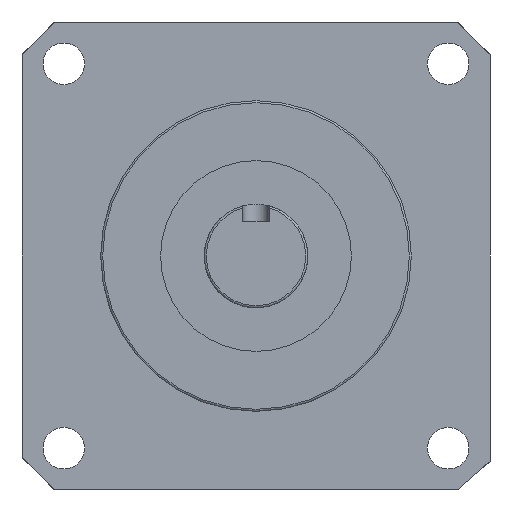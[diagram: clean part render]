
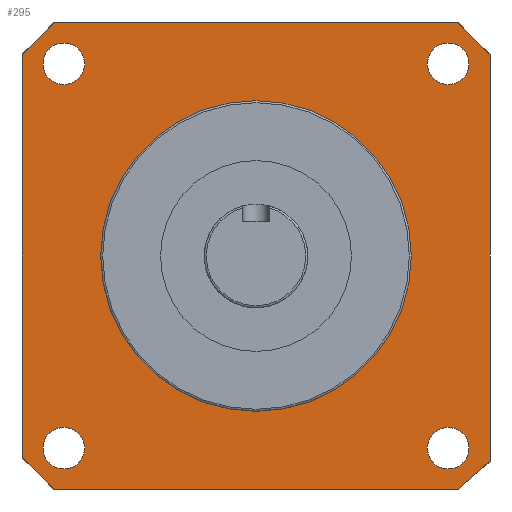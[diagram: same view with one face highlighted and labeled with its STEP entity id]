
A CAD part, front view. The second image highlights one B-rep face of the part: STEP entity #295.
In plain terms, the highlighted planar face has unit normal (0, -1, 0).
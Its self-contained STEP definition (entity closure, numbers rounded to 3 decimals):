
#295 = ADVANCED_FACE( '', ( #616, #617, #618, #619, #620, #621 ), #622, .T. );
#616 = FACE_BOUND( '', #943, .T. );
#617 = FACE_BOUND( '', #944, .T. );
#618 = FACE_OUTER_BOUND( '', #945, .T. );
#619 = FACE_BOUND( '', #946, .T. );
#620 = FACE_BOUND( '', #947, .T. );
#621 = FACE_BOUND( '', #948, .T. );
#622 = PLANE( '', #949 );
#943 = EDGE_LOOP( '', ( #1580 ) );
#944 = EDGE_LOOP( '', ( #1581 ) );
#945 = EDGE_LOOP( '', ( #1582, #1583, #1584, #1585, #1586, #1587, #1588, #1589 ) );
#946 = EDGE_LOOP( '', ( #1590 ) );
#947 = EDGE_LOOP( '', ( #1591 ) );
#948 = EDGE_LOOP( '', ( #1592 ) );
#949 = AXIS2_PLACEMENT_3D( '', #1593, #1594, #1595 );
#1580 = ORIENTED_EDGE( '', *, *, #1835, .T. );
#1581 = ORIENTED_EDGE( '', *, *, #1689, .T. );
#1582 = ORIENTED_EDGE( '', *, *, #1669, .T. );
#1583 = ORIENTED_EDGE( '', *, *, #1815, .T. );
#1584 = ORIENTED_EDGE( '', *, *, #1783, .T. );
#1585 = ORIENTED_EDGE( '', *, *, #1693, .T. );
#1586 = ORIENTED_EDGE( '', *, *, #1672, .T. );
#1587 = ORIENTED_EDGE( '', *, *, #1732, .F. );
#1588 = ORIENTED_EDGE( '', *, *, #1849, .T. );
#1589 = ORIENTED_EDGE( '', *, *, #1838, .F. );
#1590 = ORIENTED_EDGE( '', *, *, #1729, .F. );
#1591 = ORIENTED_EDGE( '', *, *, #1725, .T. );
#1592 = ORIENTED_EDGE( '', *, *, #1801, .T. );
#1593 = CARTESIAN_POINT( '', ( 28.704, -92., 28.675 ) );
#1594 = DIRECTION( '', ( 0., -1., 0. ) );
#1595 = DIRECTION( '', ( 0., 0., -1. ) );
#1669 = EDGE_CURVE( '', #1951, #1949, #1952, .T. );
#1672 = EDGE_CURVE( '', #1955, #1956, #1957, .T. );
#1689 = EDGE_CURVE( '', #1982, #1982, #1983, .T. );
#1693 = EDGE_CURVE( '', #1989, #1955, #1990, .T. );
#1725 = EDGE_CURVE( '', #2037, #2037, #2038, .T. );
#1729 = EDGE_CURVE( '', #2044, #2044, #2045, .T. );
#1732 = EDGE_CURVE( '', #2048, #1956, #2050, .T. );
#1783 = EDGE_CURVE( '', #2125, #1989, #2126, .T. );
#1801 = EDGE_CURVE( '', #2148, #2148, #2149, .T. );
#1815 = EDGE_CURVE( '', #1949, #2125, #2166, .T. );
#1835 = EDGE_CURVE( '', #2191, #2191, #2192, .T. );
#1838 = EDGE_CURVE( '', #1951, #2196, #2197, .T. );
#1849 = EDGE_CURVE( '', #2048, #2196, #2209, .T. );
#1949 = VERTEX_POINT( '', #2449 );
#1951 = VERTEX_POINT( '', #2452 );
#1952 = LINE( '', #2453, #2454 );
#1955 = VERTEX_POINT( '', #2458 );
#1956 = VERTEX_POINT( '', #2459 );
#1957 = LINE( '', #2460, #2461 );
#1982 = VERTEX_POINT( '', #2582 );
#1983 = CIRCLE( '', #2583, 2.55 );
#1989 = VERTEX_POINT( '', #2590 );
#1990 = LINE( '', #2591, #2592 );
#2037 = VERTEX_POINT( '', #2650 );
#2038 = CIRCLE( '', #2651, 2.55 );
#2044 = VERTEX_POINT( '', #2657 );
#2045 = CIRCLE( '', #2658, 19.05 );
#2048 = VERTEX_POINT( '', #2661 );
#2050 = LINE( '', #2664, #2665 );
#2125 = VERTEX_POINT( '', #2758 );
#2126 = LINE( '', #2759, #2760 );
#2148 = VERTEX_POINT( '', #2795 );
#2149 = CIRCLE( '', #2796, 2.55 );
#2166 = LINE( '', #2820, #2821 );
#2191 = VERTEX_POINT( '', #2853 );
#2192 = CIRCLE( '', #2854, 2.55 );
#2196 = VERTEX_POINT( '', #2858 );
#2197 = LINE( '', #2859, #2860 );
#2209 = LINE( '', #2876, #2877 );
#2449 = CARTESIAN_POINT( '', ( -28.696, -92., -24.725 ) );
#2452 = CARTESIAN_POINT( '', ( -28.696, -92., 24.675 ) );
#2453 = CARTESIAN_POINT( '', ( -28.696, -92., 28.675 ) );
#2454 = VECTOR( '', #2949, 1000. );
#2458 = CARTESIAN_POINT( '', ( 28.704, -92., -25.217 ) );
#2459 = CARTESIAN_POINT( '', ( 28.704, -92., 24.675 ) );
#2460 = CARTESIAN_POINT( '', ( 28.704, -92., -28.725 ) );
#2461 = VECTOR( '', #2951, 1000. );
#2582 = CARTESIAN_POINT( '', ( 26.125, -92., 23.547 ) );
#2583 = AXIS2_PLACEMENT_3D( '', #2972, #2973, #2974 );
#2590 = CARTESIAN_POINT( '', ( 24.704, -92., -28.725 ) );
#2591 = CARTESIAN_POINT( '', ( 24.704, -92., -28.725 ) );
#2592 = VECTOR( '', #2979, 1000. );
#2650 = CARTESIAN_POINT( '', ( -21.018, -92., 23.547 ) );
#2651 = AXIS2_PLACEMENT_3D( '', #3021, #3022, #3023 );
#2657 = CARTESIAN_POINT( '', ( 0.004, -92., -19.075 ) );
#2658 = AXIS2_PLACEMENT_3D( '', #3030, #3031, #3032 );
#2661 = CARTESIAN_POINT( '', ( 24.704, -92., 28.675 ) );
#2664 = CARTESIAN_POINT( '', ( 24.704, -92., 28.675 ) );
#2665 = VECTOR( '', #3034, 1000. );
#2758 = CARTESIAN_POINT( '', ( -24.696, -92., -28.725 ) );
#2759 = CARTESIAN_POINT( '', ( -28.696, -92., -28.725 ) );
#2760 = VECTOR( '', #3101, 1000. );
#2795 = CARTESIAN_POINT( '', ( 26.125, -92., -23.596 ) );
#2796 = AXIS2_PLACEMENT_3D( '', #3113, #3114, #3115 );
#2820 = CARTESIAN_POINT( '', ( -28.696, -92., -24.725 ) );
#2821 = VECTOR( '', #3126, 1000. );
#2853 = CARTESIAN_POINT( '', ( -21.018, -92., -23.596 ) );
#2854 = AXIS2_PLACEMENT_3D( '', #3144, #3145, #3146 );
#2858 = CARTESIAN_POINT( '', ( -24.696, -92., 28.675 ) );
#2859 = CARTESIAN_POINT( '', ( -28.696, -92., 24.675 ) );
#2860 = VECTOR( '', #3150, 1000. );
#2876 = CARTESIAN_POINT( '', ( 28.704, -92., 28.675 ) );
#2877 = VECTOR( '', #3158, 1000. );
#2949 = DIRECTION( '', ( 0., 0., -1. ) );
#2951 = DIRECTION( '', ( 0., 0., 1. ) );
#2972 = CARTESIAN_POINT( '', ( 23.575, -92., 23.547 ) );
#2973 = DIRECTION( '', ( 0., 1., 0. ) );
#2974 = DIRECTION( '', ( 1., 0., 0. ) );
#2979 = DIRECTION( '', ( 0.752, 0., 0.659 ) );
#3021 = CARTESIAN_POINT( '', ( -23.568, -92., 23.547 ) );
#3022 = DIRECTION( '', ( 0., 1., 0. ) );
#3023 = DIRECTION( '', ( 1., 0., 0. ) );
#3030 = CARTESIAN_POINT( '', ( 0.004, -92., -0.025 ) );
#3031 = DIRECTION( '', ( 0., -1., 0. ) );
#3032 = DIRECTION( '', ( 0., 0., -1. ) );
#3034 = DIRECTION( '', ( 0.707, 0., -0.707 ) );
#3101 = DIRECTION( '', ( 1., 0., 0. ) );
#3113 = CARTESIAN_POINT( '', ( 23.575, -92., -23.596 ) );
#3114 = DIRECTION( '', ( 0., 1., 0. ) );
#3115 = DIRECTION( '', ( 1., 0., 0. ) );
#3126 = DIRECTION( '', ( 0.707, 0., -0.707 ) );
#3144 = CARTESIAN_POINT( '', ( -23.568, -92., -23.596 ) );
#3145 = DIRECTION( '', ( 0., 1., 0. ) );
#3146 = DIRECTION( '', ( 1., 0., 0. ) );
#3150 = DIRECTION( '', ( 0.707, 0., 0.707 ) );
#3158 = DIRECTION( '', ( -1., 0., 0. ) );
